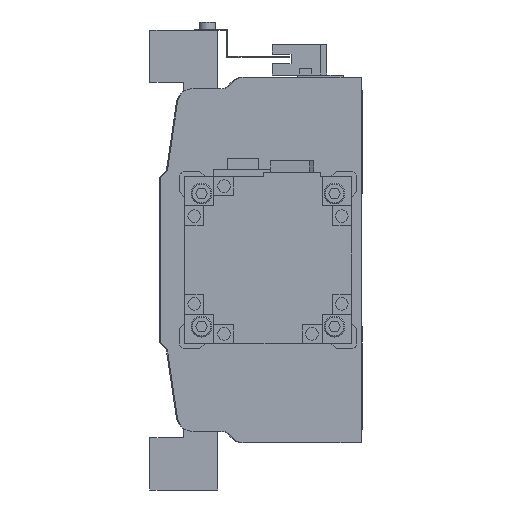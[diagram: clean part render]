
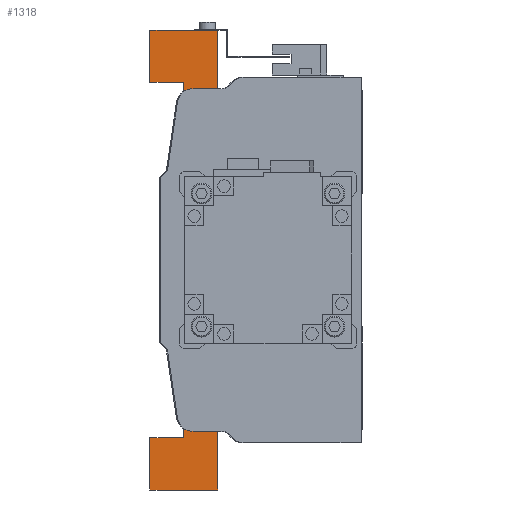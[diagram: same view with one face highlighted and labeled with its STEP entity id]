
A CAD part, left-side view. The second image highlights one B-rep face of the part: STEP entity #1318.
In plain terms, the highlighted planar face has unit normal (-1, 0, 0).
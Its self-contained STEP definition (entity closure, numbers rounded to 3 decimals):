
#1318 = ADVANCED_FACE( '', ( #2825 ), #2826, .F. );
#2825 = FACE_OUTER_BOUND( '', #4606, .T. );
#2826 = PLANE( '', #4607 );
#4606 = EDGE_LOOP( '', ( #7924, #7925, #7926, #7927, #7928, #7929, #7930, #7931, #7932, #7933, #7934, #7935, #7936, #7937, #7938, #7939 ) );
#4607 = AXIS2_PLACEMENT_3D( '', #7940, #7941, #7942 );
#7924 = ORIENTED_EDGE( '', *, *, #10670, .T. );
#7925 = ORIENTED_EDGE( '', *, *, #10551, .T. );
#7926 = ORIENTED_EDGE( '', *, *, #11488, .F. );
#7927 = ORIENTED_EDGE( '', *, *, #11156, .F. );
#7928 = ORIENTED_EDGE( '', *, *, #10730, .F. );
#7929 = ORIENTED_EDGE( '', *, *, #11489, .F. );
#7930 = ORIENTED_EDGE( '', *, *, #11490, .F. );
#7931 = ORIENTED_EDGE( '', *, *, #11397, .F. );
#7932 = ORIENTED_EDGE( '', *, *, #11491, .F. );
#7933 = ORIENTED_EDGE( '', *, *, #10480, .F. );
#7934 = ORIENTED_EDGE( '', *, *, #11052, .F. );
#7935 = ORIENTED_EDGE( '', *, *, #11380, .F. );
#7936 = ORIENTED_EDGE( '', *, *, #10484, .F. );
#7937 = ORIENTED_EDGE( '', *, *, #11492, .F. );
#7938 = ORIENTED_EDGE( '', *, *, #10277, .F. );
#7939 = ORIENTED_EDGE( '', *, *, #11493, .T. );
#7940 = CARTESIAN_POINT( '', ( -100., -56.5, 0. ) );
#7941 = DIRECTION( '', ( 1., 0., 0. ) );
#7942 = DIRECTION( '', ( 0., 0., -1. ) );
#10277 = EDGE_CURVE( '', #12216, #12218, #12219, .T. );
#10480 = EDGE_CURVE( '', #12579, #12580, #12581, .T. );
#10484 = EDGE_CURVE( '', #12585, #12586, #12587, .T. );
#10551 = EDGE_CURVE( '', #12698, #12699, #12700, .T. );
#10670 = EDGE_CURVE( '', #12900, #12698, #12901, .T. );
#10730 = EDGE_CURVE( '', #12999, #13000, #13001, .T. );
#11052 = EDGE_CURVE( '', #13505, #12579, #13506, .T. );
#11156 = EDGE_CURVE( '', #13000, #13661, #13662, .T. );
#11380 = EDGE_CURVE( '', #12586, #13505, #13998, .T. );
#11397 = EDGE_CURVE( '', #14020, #14021, #14022, .T. );
#11488 = EDGE_CURVE( '', #13661, #12699, #14153, .T. );
#11489 = EDGE_CURVE( '', #14154, #12999, #14155, .T. );
#11490 = EDGE_CURVE( '', #14021, #14154, #14156, .T. );
#11491 = EDGE_CURVE( '', #12580, #14020, #14157, .T. );
#11492 = EDGE_CURVE( '', #12218, #12585, #14158, .T. );
#11493 = EDGE_CURVE( '', #12216, #12900, #14159, .T. );
#12216 = VERTEX_POINT( '', #15073 );
#12218 = VERTEX_POINT( '', #15076 );
#12219 = LINE( '', #15077, #15078 );
#12579 = VERTEX_POINT( '', #15600 );
#12580 = VERTEX_POINT( '', #15601 );
#12581 = LINE( '', #15602, #15603 );
#12585 = VERTEX_POINT( '', #15609 );
#12586 = VERTEX_POINT( '', #15610 );
#12587 = LINE( '', #15611, #15612 );
#12698 = VERTEX_POINT( '', #15771 );
#12699 = VERTEX_POINT( '', #15772 );
#12700 = CIRCLE( '', #15773, 31. );
#12900 = VERTEX_POINT( '', #16040 );
#12901 = LINE( '', #16041, #16042 );
#12999 = VERTEX_POINT( '', #16174 );
#13000 = VERTEX_POINT( '', #16175 );
#13001 = LINE( '', #16176, #16177 );
#13505 = VERTEX_POINT( '', #16878 );
#13506 = LINE( '', #16879, #16880 );
#13661 = VERTEX_POINT( '', #17097 );
#13662 = LINE( '', #17098, #17099 );
#13998 = LINE( '', #17558, #17559 );
#14020 = VERTEX_POINT( '', #17590 );
#14021 = VERTEX_POINT( '', #17591 );
#14022 = LINE( '', #17592, #17593 );
#14153 = LINE( '', #17789, #17790 );
#14154 = VERTEX_POINT( '', #17791 );
#14155 = LINE( '', #17792, #17793 );
#14156 = LINE( '', #17794, #17795 );
#14157 = LINE( '', #17796, #17797 );
#14158 = LINE( '', #17798, #17799 );
#14159 = CIRCLE( '', #17800, 31. );
#15073 = CARTESIAN_POINT( '', ( -100., -77.5, -22.803 ) );
#15076 = CARTESIAN_POINT( '', ( -100., -77.5, -34. ) );
#15077 = CARTESIAN_POINT( '', ( -100., -77.5, -13.242 ) );
#15078 = VECTOR( '', #18820, 1000. );
#15600 = CARTESIAN_POINT( '', ( -100., 0., -85. ) );
#15601 = CARTESIAN_POINT( '', ( -100., -16., -85. ) );
#15602 = CARTESIAN_POINT( '', ( -100., 0., -85. ) );
#15603 = VECTOR( '', #19022, 1000. );
#15609 = CARTESIAN_POINT( '', ( -100., -32.5, -34. ) );
#15610 = CARTESIAN_POINT( '', ( -100., -32.5, -110. ) );
#15611 = CARTESIAN_POINT( '', ( -100., -32.5, -34. ) );
#15612 = VECTOR( '', #19025, 1000. );
#15771 = CARTESIAN_POINT( '', ( -100., -32.5, 19.622 ) );
#15772 = CARTESIAN_POINT( '', ( -100., -77.5, 22.803 ) );
#15773 = AXIS2_PLACEMENT_3D( '', #19098, #19099, #19100 );
#16040 = CARTESIAN_POINT( '', ( -100., -32.5, -19.622 ) );
#16041 = CARTESIAN_POINT( '', ( -100., -32.5, -19.622 ) );
#16042 = VECTOR( '', #19240, 1000. );
#16174 = CARTESIAN_POINT( '', ( -100., -32.5, 110. ) );
#16175 = CARTESIAN_POINT( '', ( -100., -32.5, 34. ) );
#16176 = CARTESIAN_POINT( '', ( -100., -32.5, 110. ) );
#16177 = VECTOR( '', #19308, 1000. );
#16878 = CARTESIAN_POINT( '', ( -100., 0., -110. ) );
#16879 = CARTESIAN_POINT( '', ( -100., 0., -110. ) );
#16880 = VECTOR( '', #19677, 1000. );
#17097 = CARTESIAN_POINT( '', ( -100., -77.5, 34. ) );
#17098 = CARTESIAN_POINT( '', ( -100., -32.5, 34. ) );
#17099 = VECTOR( '', #19782, 1000. );
#17558 = CARTESIAN_POINT( '', ( -100., -32.5, -110. ) );
#17559 = VECTOR( '', #20023, 1000. );
#17590 = CARTESIAN_POINT( '', ( -100., -16., 85. ) );
#17591 = CARTESIAN_POINT( '', ( -100., 0., 85. ) );
#17592 = CARTESIAN_POINT( '', ( -100., -16., 85. ) );
#17593 = VECTOR( '', #20036, 1000. );
#17789 = CARTESIAN_POINT( '', ( -100., -77.5, 34. ) );
#17790 = VECTOR( '', #20114, 1000. );
#17791 = CARTESIAN_POINT( '', ( -100., 0., 110. ) );
#17792 = CARTESIAN_POINT( '', ( -100., 0., 110. ) );
#17793 = VECTOR( '', #20115, 1000. );
#17794 = CARTESIAN_POINT( '', ( -100., 0., 85. ) );
#17795 = VECTOR( '', #20116, 1000. );
#17796 = CARTESIAN_POINT( '', ( -100., -16., -85. ) );
#17797 = VECTOR( '', #20117, 1000. );
#17798 = CARTESIAN_POINT( '', ( -100., -77.5, -34. ) );
#17799 = VECTOR( '', #20118, 1000. );
#17800 = AXIS2_PLACEMENT_3D( '', #20119, #20120, #20121 );
#18820 = DIRECTION( '', ( 0., 0., -1. ) );
#19022 = DIRECTION( '', ( 0., -1., 0. ) );
#19025 = DIRECTION( '', ( 0., 0., -1. ) );
#19098 = CARTESIAN_POINT( '', ( -100., -56.5, 0. ) );
#19099 = DIRECTION( '', ( 1., 0., 0. ) );
#19100 = DIRECTION( '', ( 0., 0., -1. ) );
#19240 = DIRECTION( '', ( 0., 0., 1. ) );
#19308 = DIRECTION( '', ( 0., 0., -1. ) );
#19677 = DIRECTION( '', ( 0., 0., 1. ) );
#19782 = DIRECTION( '', ( 0., -1., 0. ) );
#20023 = DIRECTION( '', ( 0., 1., 0. ) );
#20036 = DIRECTION( '', ( 0., 1., 0. ) );
#20114 = DIRECTION( '', ( 0., 0., -1. ) );
#20115 = DIRECTION( '', ( 0., -1., 0. ) );
#20116 = DIRECTION( '', ( 0., 0., 1. ) );
#20117 = DIRECTION( '', ( 0., 0., 1. ) );
#20118 = DIRECTION( '', ( 0., 1., 0. ) );
#20119 = CARTESIAN_POINT( '', ( -100., -56.5, 0. ) );
#20120 = DIRECTION( '', ( 1., 0., 0. ) );
#20121 = DIRECTION( '', ( 0., 0., -1. ) );
